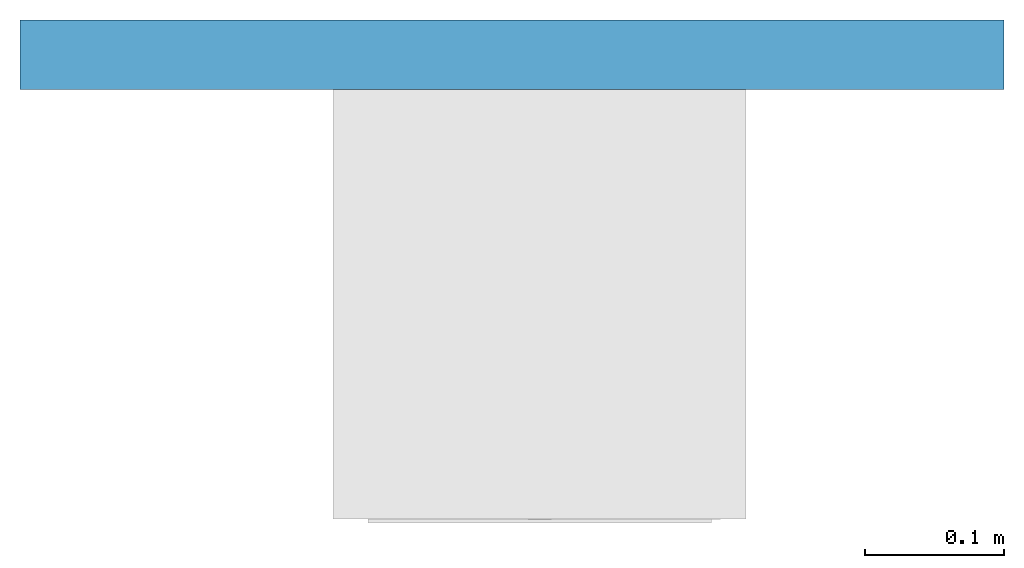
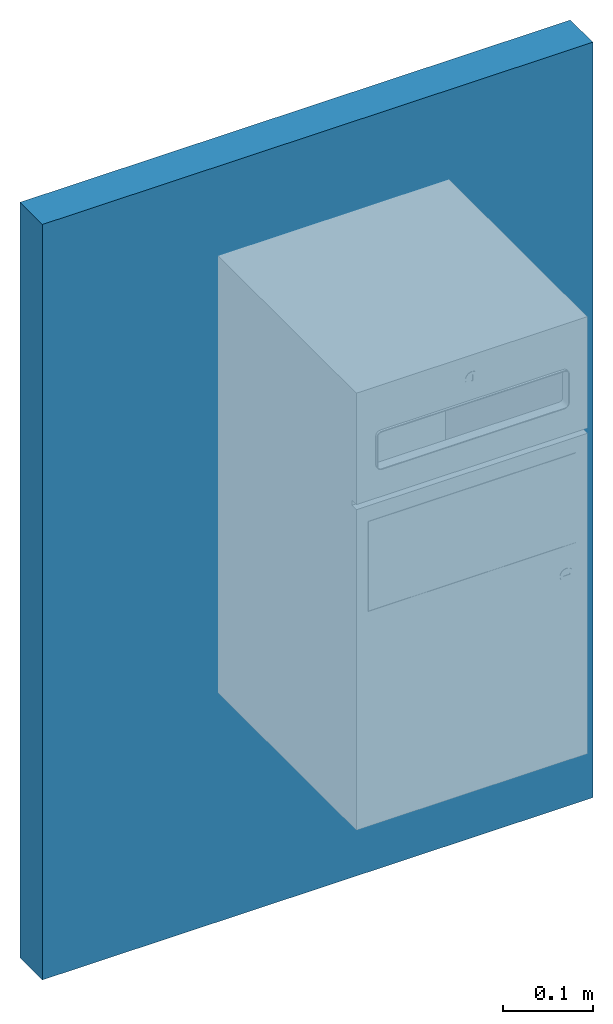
# One storey, part 1 of 2: 1 wall.
"""IFC2X3 building model written with IfcOpenShell, lengths in millimetres."""

from ifc_helpers import new_model, entity, si_unit, converted_unit, derived_unit, direction, frame, frame_2d, origin, place, context, subcontext, project, spatial, rectangle, extrude, material, layer, layer_set, layer_usage, type_object, element, save


model = new_model("IFC2X3")

# Units and contexts
model_context = context("Model", 3, precision=1e-05, world=origin(), true_north=direction((2.0, 6.12303176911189e-17, 1.0)))
context_of_model = context(None, 3, precision=1e-05, world=origin(), true_north=direction((2.0, 6.12303176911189e-17, 1.0)))
body_context = subcontext(model_context, "Body", "Model", "MODEL_VIEW")
ifc_project = project(units=[si_unit("LENGTHUNIT", "METRE", prefix="MILLI"), si_unit("AREAUNIT", "SQUARE_METRE"), si_unit("VOLUMEUNIT", "CUBIC_METRE"), converted_unit("PLANEANGLEUNIT", "DEGREE", entity("IfcRatioMeasure", 0.0174532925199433), si_unit("PLANEANGLEUNIT", "RADIAN"), dimensions=[0, 0, 0, 0, 0, 0, 0]), si_unit("MASSUNIT", "GRAM", prefix="KILO"), si_unit("TIMEUNIT", "SECOND"), si_unit("THERMODYNAMICTEMPERATUREUNIT", "KELVIN"), derived_unit("THERMALTRANSMITTANCEUNIT", [(si_unit("MASSUNIT", "GRAM", prefix="KILO"), 1), (si_unit("THERMODYNAMICTEMPERATUREUNIT", "KELVIN"), -1), (si_unit("TIMEUNIT", "SECOND"), -3)]), derived_unit("VOLUMETRICFLOWRATEUNIT", [(si_unit("LENGTHUNIT", "METRE"), 3), (si_unit("TIMEUNIT", "SECOND"), -1)]), si_unit("POWERUNIT", "WATT")], contexts=[model_context, context_of_model])

# Site, building, storey
site_placement = place(None, origin())
site = spatial("IfcSite", under=ifc_project, at=site_placement, Name="Default", CompositionType="ELEMENT")
building_placement = place(site_placement, origin())
building = spatial("IfcBuilding", under=site, at=building_placement, CompositionType="ELEMENT")
storey_placement = place(building_placement, origin())
storey = spatial("IfcBuildingStorey", under=building, at=storey_placement, Name="Level 1", CompositionType="ELEMENT", Elevation=0.0)

# Wall
ifc_material = material(Name="Default Wall")
ifc_layer = layer(ifc_material, 50.0)
ifc_layer_set = layer_set([ifc_layer], Name="Basic Wall:Wall 1")
ifc_layer_usage = layer_usage(ifc_layer_set, "AXIS2", "NEGATIVE", 25.0)
wall_type = type_object("IfcWallType", Name="Basic Wall:Wall 1", PredefinedType="STANDARD", material=ifc_layer_set)
wall_placement = place(storey_placement, frame((-375.07462159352, 3977.69853342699, -313.074847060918)))
element("IfcWallStandardCase", 1, at=wall_placement, inside=storey, type_object=wall_type, material=ifc_layer_usage, Name="Basic Wall:Wall 1:3092", ObjectType="Basic Wall:Wall 1:1494", context=body_context, shape_type="SweptSolid", body=[
    extrude(rectangle(XDim=710.0, YDim=50.0000000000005, at=frame_2d((355.0, 0.0), x_axis=(-1.0, 0.0))), origin(), (0.0, 0.0, 1.0), 1030.2858376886),
])

save(model, "model.ifc")
